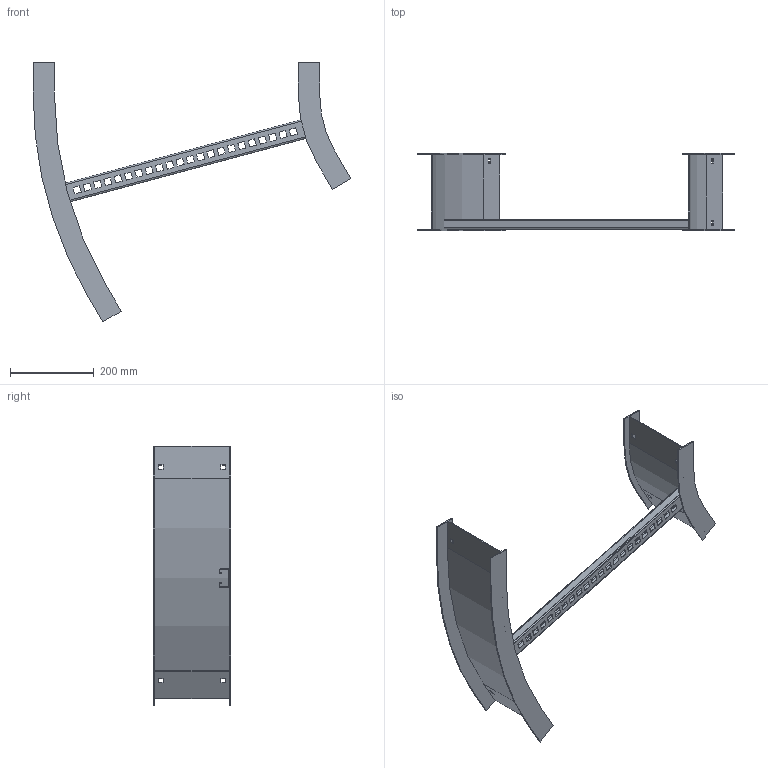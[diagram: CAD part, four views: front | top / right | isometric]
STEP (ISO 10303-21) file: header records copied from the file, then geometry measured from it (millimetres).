
FILE_DESCRIPTION((''),'2;1');
FILE_NAME('AHF724LHB3012_ASM','2010-01-27T',('erouzier'),(''),'PRO/ENGINEER BY PARAMETRIC TECHNOLOGY CORPORATION, 2008510','PRO/ENGINEER BY PARAMETRIC TECHNOLOGY CORPORATION, 2008510','');
FILE_SCHEMA(('CONFIG_CONTROL_DESIGN'));
Length unit declared in the file: inch
Products named in the file (4): CDS001813-7-30-12-I; CDS001813-7-30-36-O; CDS002159L24-P; AHF724LHB3012_ASM
Assembly tree (3 placements, depth 2):
  AHF724LHB3012_ASM
    CDS001813-7-30-12-I
    CDS001813-7-30-36-O
    CDS002159L24-P
Bounding box: 756.69 x 183.9 x 618.7 mm (x, y, z)
Volume: 772554.3 mm3; surface area: 671560.1 mm2
Topology: 3 solids, 3 shells, 290 faces, 852 edges, 568 vertices
Faces by surface type: plane 179, cylinder 111
Entity records: 9894 total; most frequent: CARTESIAN_POINT 1717, ORIENTED_EDGE 1704, DIRECTION 1668, EDGE_CURVE 852, VECTOR 630, LINE 630, VERTEX_POINT 568, AXIS2_PLACEMENT_3D 519
